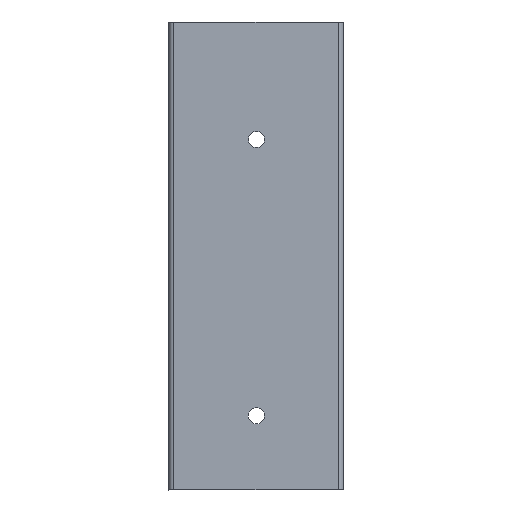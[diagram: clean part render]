
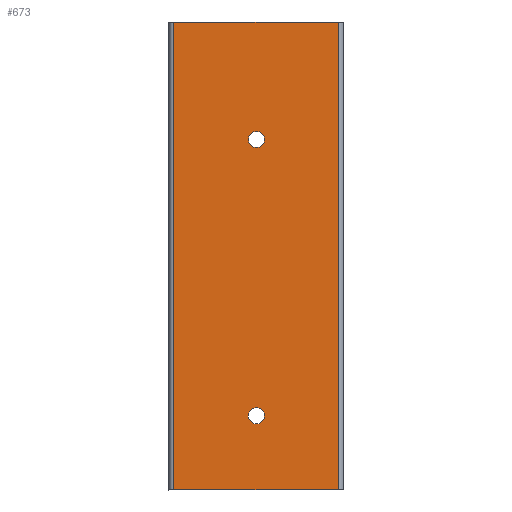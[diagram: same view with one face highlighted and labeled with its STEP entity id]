
A CAD part, top view. The second image highlights one B-rep face of the part: STEP entity #673.
In plain terms, the highlighted planar face has unit normal (0, 0, 1).
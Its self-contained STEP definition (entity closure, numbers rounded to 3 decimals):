
#60 = PLANE('',#61);
#61 = AXIS2_PLACEMENT_3D('',#62,#63,#64);
#62 = CARTESIAN_POINT('',(-93.276,260.35,
    -14.387));
#63 = DIRECTION('',(0.,-1.,0.));
#64 = DIRECTION('',(1.,0.,0.));
#88 = CYLINDRICAL_SURFACE('',#89,2.955);
#89 = AXIS2_PLACEMENT_3D('',#90,#91,#92);
#90 = CARTESIAN_POINT('',(-90.321,0.,
    -4.642));
#91 = DIRECTION('',(0.,-1.,0.));
#92 = DIRECTION('',(1.,0.,0.));
#114 = PLANE('',#115);
#115 = AXIS2_PLACEMENT_3D('',#116,#117,#118);
#116 = CARTESIAN_POINT('',(-93.276,0.,
    -14.387));
#117 = DIRECTION('',(0.,-1.,0.));
#118 = DIRECTION('',(1.,0.,0.));
#129 = EDGE_CURVE('',#130,#132,#134,.T.);
#130 = VERTEX_POINT('',#131);
#131 = CARTESIAN_POINT('',(-90.321,0.,
    -1.687));
#132 = VERTEX_POINT('',#133);
#133 = CARTESIAN_POINT('',(-90.321,260.35,
    -1.687));
#134 = SURFACE_CURVE('',#135,(#139,#146),.PCURVE_S1.);
#135 = LINE('',#136,#137);
#136 = CARTESIAN_POINT('',(-90.321,0.,
    -1.687));
#137 = VECTOR('',#138,1.);
#138 = DIRECTION('',(-0.,1.,0.));
#139 = PCURVE('',#88,#140);
#140 = DEFINITIONAL_REPRESENTATION('',(#141),#145);
#141 = LINE('',#142,#143);
#142 = CARTESIAN_POINT('',(1.571,0.));
#143 = VECTOR('',#144,1.);
#144 = DIRECTION('',(0.,-1.));
#145 = ( GEOMETRIC_REPRESENTATION_CONTEXT(2) 
PARAMETRIC_REPRESENTATION_CONTEXT() REPRESENTATION_CONTEXT('2D SPACE',''
  ) );
#146 = PCURVE('',#147,#152);
#147 = PLANE('',#148);
#148 = AXIS2_PLACEMENT_3D('',#149,#150,#151);
#149 = CARTESIAN_POINT('',(-90.321,0.,
    -1.687));
#150 = DIRECTION('',(0.,0.,-1.));
#151 = DIRECTION('',(1.,0.,0.));
#152 = DEFINITIONAL_REPRESENTATION('',(#153),#157);
#153 = LINE('',#154,#155);
#154 = CARTESIAN_POINT('',(0.,0.));
#155 = VECTOR('',#156,1.);
#156 = DIRECTION('',(0.,-1.));
#157 = ( GEOMETRIC_REPRESENTATION_CONTEXT(2) 
PARAMETRIC_REPRESENTATION_CONTEXT() REPRESENTATION_CONTEXT('2D SPACE',''
  ) );
#209 = EDGE_CURVE('',#130,#210,#212,.T.);
#210 = VERTEX_POINT('',#211);
#211 = CARTESIAN_POINT('',(0.924,0.,
    -1.687));
#212 = SURFACE_CURVE('',#213,(#217,#224),.PCURVE_S1.);
#213 = LINE('',#214,#215);
#214 = CARTESIAN_POINT('',(-90.321,0.,
    -1.687));
#215 = VECTOR('',#216,1.);
#216 = DIRECTION('',(1.,0.,0.));
#217 = PCURVE('',#114,#218);
#218 = DEFINITIONAL_REPRESENTATION('',(#219),#223);
#219 = LINE('',#220,#221);
#220 = CARTESIAN_POINT('',(2.955,12.7));
#221 = VECTOR('',#222,1.);
#222 = DIRECTION('',(1.,0.));
#223 = ( GEOMETRIC_REPRESENTATION_CONTEXT(2) 
PARAMETRIC_REPRESENTATION_CONTEXT() REPRESENTATION_CONTEXT('2D SPACE',''
  ) );
#224 = PCURVE('',#147,#225);
#225 = DEFINITIONAL_REPRESENTATION('',(#226),#230);
#226 = LINE('',#227,#228);
#227 = CARTESIAN_POINT('',(0.,0.));
#228 = VECTOR('',#229,1.);
#229 = DIRECTION('',(1.,0.));
#230 = ( GEOMETRIC_REPRESENTATION_CONTEXT(2) 
PARAMETRIC_REPRESENTATION_CONTEXT() REPRESENTATION_CONTEXT('2D SPACE',''
  ) );
#249 = CYLINDRICAL_SURFACE('',#250,2.955);
#250 = AXIS2_PLACEMENT_3D('',#251,#252,#253);
#251 = CARTESIAN_POINT('',(0.924,0.,
    -4.642));
#252 = DIRECTION('',(0.,-1.,0.));
#253 = DIRECTION('',(1.,0.,0.));
#464 = EDGE_CURVE('',#132,#465,#467,.T.);
#465 = VERTEX_POINT('',#466);
#466 = CARTESIAN_POINT('',(0.924,260.35,
    -1.687));
#467 = SURFACE_CURVE('',#468,(#472,#479),.PCURVE_S1.);
#468 = LINE('',#469,#470);
#469 = CARTESIAN_POINT('',(-90.321,260.35,
    -1.687));
#470 = VECTOR('',#471,1.);
#471 = DIRECTION('',(1.,0.,0.));
#472 = PCURVE('',#60,#473);
#473 = DEFINITIONAL_REPRESENTATION('',(#474),#478);
#474 = LINE('',#475,#476);
#475 = CARTESIAN_POINT('',(2.955,12.7));
#476 = VECTOR('',#477,1.);
#477 = DIRECTION('',(1.,0.));
#478 = ( GEOMETRIC_REPRESENTATION_CONTEXT(2) 
PARAMETRIC_REPRESENTATION_CONTEXT() REPRESENTATION_CONTEXT('2D SPACE',''
  ) );
#479 = PCURVE('',#147,#480);
#480 = DEFINITIONAL_REPRESENTATION('',(#481),#485);
#481 = LINE('',#482,#483);
#482 = CARTESIAN_POINT('',(0.,-260.35));
#483 = VECTOR('',#484,1.);
#484 = DIRECTION('',(1.,0.));
#485 = ( GEOMETRIC_REPRESENTATION_CONTEXT(2) 
PARAMETRIC_REPRESENTATION_CONTEXT() REPRESENTATION_CONTEXT('2D SPACE',''
  ) );
#673 = ADVANCED_FACE('',(#674,#729,#784),#147,.F.);
#674 = FACE_BOUND('',#675,.F.);
#675 = EDGE_LOOP('',(#676,#707));
#676 = ORIENTED_EDGE('',*,*,#677,.F.);
#677 = EDGE_CURVE('',#678,#680,#682,.T.);
#678 = VERTEX_POINT('',#679);
#679 = CARTESIAN_POINT('',(-39.954,194.945,-1.687));
#680 = VERTEX_POINT('',#681);
#681 = CARTESIAN_POINT('',(-44.45,199.441,-1.687));
#682 = SURFACE_CURVE('',#683,(#688,#695),.PCURVE_S1.);
#683 = CIRCLE('',#684,4.496);
#684 = AXIS2_PLACEMENT_3D('',#685,#686,#687);
#685 = CARTESIAN_POINT('',(-44.45,194.945,-1.687));
#686 = DIRECTION('',(0.,0.,-1.));
#687 = DIRECTION('',(0.,1.,0.));
#688 = PCURVE('',#147,#689);
#689 = DEFINITIONAL_REPRESENTATION('',(#690),#694);
#690 = CIRCLE('',#691,4.496);
#691 = AXIS2_PLACEMENT_2D('',#692,#693);
#692 = CARTESIAN_POINT('',(45.871,-194.945));
#693 = DIRECTION('',(0.,-1.));
#694 = ( GEOMETRIC_REPRESENTATION_CONTEXT(2) 
PARAMETRIC_REPRESENTATION_CONTEXT() REPRESENTATION_CONTEXT('2D SPACE',''
  ) );
#695 = PCURVE('',#696,#701);
#696 = CYLINDRICAL_SURFACE('',#697,4.496);
#697 = AXIS2_PLACEMENT_3D('',#698,#699,#700);
#698 = CARTESIAN_POINT('',(-44.45,194.945,0.));
#699 = DIRECTION('',(0.,0.,-1.));
#700 = DIRECTION('',(1.,0.,0.));
#701 = DEFINITIONAL_REPRESENTATION('',(#702),#706);
#702 = LINE('',#703,#704);
#703 = CARTESIAN_POINT('',(-1.571,1.687));
#704 = VECTOR('',#705,1.);
#705 = DIRECTION('',(1.,0.));
#706 = ( GEOMETRIC_REPRESENTATION_CONTEXT(2) 
PARAMETRIC_REPRESENTATION_CONTEXT() REPRESENTATION_CONTEXT('2D SPACE',''
  ) );
#707 = ORIENTED_EDGE('',*,*,#708,.F.);
#708 = EDGE_CURVE('',#680,#678,#709,.T.);
#709 = SURFACE_CURVE('',#710,(#715,#722),.PCURVE_S1.);
#710 = CIRCLE('',#711,4.496);
#711 = AXIS2_PLACEMENT_3D('',#712,#713,#714);
#712 = CARTESIAN_POINT('',(-44.45,194.945,-1.687));
#713 = DIRECTION('',(0.,0.,-1.));
#714 = DIRECTION('',(0.,1.,0.));
#715 = PCURVE('',#147,#716);
#716 = DEFINITIONAL_REPRESENTATION('',(#717),#721);
#717 = CIRCLE('',#718,4.496);
#718 = AXIS2_PLACEMENT_2D('',#719,#720);
#719 = CARTESIAN_POINT('',(45.871,-194.945));
#720 = DIRECTION('',(0.,-1.));
#721 = ( GEOMETRIC_REPRESENTATION_CONTEXT(2) 
PARAMETRIC_REPRESENTATION_CONTEXT() REPRESENTATION_CONTEXT('2D SPACE',''
  ) );
#722 = PCURVE('',#696,#723);
#723 = DEFINITIONAL_REPRESENTATION('',(#724),#728);
#724 = LINE('',#725,#726);
#725 = CARTESIAN_POINT('',(4.712,1.687));
#726 = VECTOR('',#727,1.);
#727 = DIRECTION('',(1.,0.));
#728 = ( GEOMETRIC_REPRESENTATION_CONTEXT(2) 
PARAMETRIC_REPRESENTATION_CONTEXT() REPRESENTATION_CONTEXT('2D SPACE',''
  ) );
#729 = FACE_BOUND('',#730,.F.);
#730 = EDGE_LOOP('',(#731,#762));
#731 = ORIENTED_EDGE('',*,*,#732,.F.);
#732 = EDGE_CURVE('',#733,#735,#737,.T.);
#733 = VERTEX_POINT('',#734);
#734 = CARTESIAN_POINT('',(-39.954,41.275,-1.687));
#735 = VERTEX_POINT('',#736);
#736 = CARTESIAN_POINT('',(-44.45,45.771,-1.687));
#737 = SURFACE_CURVE('',#738,(#743,#750),.PCURVE_S1.);
#738 = CIRCLE('',#739,4.496);
#739 = AXIS2_PLACEMENT_3D('',#740,#741,#742);
#740 = CARTESIAN_POINT('',(-44.45,41.275,-1.687));
#741 = DIRECTION('',(0.,0.,-1.));
#742 = DIRECTION('',(0.,1.,0.));
#743 = PCURVE('',#147,#744);
#744 = DEFINITIONAL_REPRESENTATION('',(#745),#749);
#745 = CIRCLE('',#746,4.496);
#746 = AXIS2_PLACEMENT_2D('',#747,#748);
#747 = CARTESIAN_POINT('',(45.871,-41.275));
#748 = DIRECTION('',(0.,-1.));
#749 = ( GEOMETRIC_REPRESENTATION_CONTEXT(2) 
PARAMETRIC_REPRESENTATION_CONTEXT() REPRESENTATION_CONTEXT('2D SPACE',''
  ) );
#750 = PCURVE('',#751,#756);
#751 = CYLINDRICAL_SURFACE('',#752,4.496);
#752 = AXIS2_PLACEMENT_3D('',#753,#754,#755);
#753 = CARTESIAN_POINT('',(-44.45,41.275,0.));
#754 = DIRECTION('',(0.,0.,-1.));
#755 = DIRECTION('',(1.,0.,0.));
#756 = DEFINITIONAL_REPRESENTATION('',(#757),#761);
#757 = LINE('',#758,#759);
#758 = CARTESIAN_POINT('',(-1.571,1.687));
#759 = VECTOR('',#760,1.);
#760 = DIRECTION('',(1.,0.));
#761 = ( GEOMETRIC_REPRESENTATION_CONTEXT(2) 
PARAMETRIC_REPRESENTATION_CONTEXT() REPRESENTATION_CONTEXT('2D SPACE',''
  ) );
#762 = ORIENTED_EDGE('',*,*,#763,.F.);
#763 = EDGE_CURVE('',#735,#733,#764,.T.);
#764 = SURFACE_CURVE('',#765,(#770,#777),.PCURVE_S1.);
#765 = CIRCLE('',#766,4.496);
#766 = AXIS2_PLACEMENT_3D('',#767,#768,#769);
#767 = CARTESIAN_POINT('',(-44.45,41.275,-1.687));
#768 = DIRECTION('',(0.,0.,-1.));
#769 = DIRECTION('',(0.,1.,0.));
#770 = PCURVE('',#147,#771);
#771 = DEFINITIONAL_REPRESENTATION('',(#772),#776);
#772 = CIRCLE('',#773,4.496);
#773 = AXIS2_PLACEMENT_2D('',#774,#775);
#774 = CARTESIAN_POINT('',(45.871,-41.275));
#775 = DIRECTION('',(0.,-1.));
#776 = ( GEOMETRIC_REPRESENTATION_CONTEXT(2) 
PARAMETRIC_REPRESENTATION_CONTEXT() REPRESENTATION_CONTEXT('2D SPACE',''
  ) );
#777 = PCURVE('',#751,#778);
#778 = DEFINITIONAL_REPRESENTATION('',(#779),#783);
#779 = LINE('',#780,#781);
#780 = CARTESIAN_POINT('',(4.712,1.687));
#781 = VECTOR('',#782,1.);
#782 = DIRECTION('',(1.,0.));
#783 = ( GEOMETRIC_REPRESENTATION_CONTEXT(2) 
PARAMETRIC_REPRESENTATION_CONTEXT() REPRESENTATION_CONTEXT('2D SPACE',''
  ) );
#784 = FACE_BOUND('',#785,.F.);
#785 = EDGE_LOOP('',(#786,#787,#788,#809));
#786 = ORIENTED_EDGE('',*,*,#129,.T.);
#787 = ORIENTED_EDGE('',*,*,#464,.T.);
#788 = ORIENTED_EDGE('',*,*,#789,.F.);
#789 = EDGE_CURVE('',#210,#465,#790,.T.);
#790 = SURFACE_CURVE('',#791,(#795,#802),.PCURVE_S1.);
#791 = LINE('',#792,#793);
#792 = CARTESIAN_POINT('',(0.924,0.,
    -1.687));
#793 = VECTOR('',#794,1.);
#794 = DIRECTION('',(-0.,1.,0.));
#795 = PCURVE('',#147,#796);
#796 = DEFINITIONAL_REPRESENTATION('',(#797),#801);
#797 = LINE('',#798,#799);
#798 = CARTESIAN_POINT('',(91.245,0.));
#799 = VECTOR('',#800,1.);
#800 = DIRECTION('',(0.,-1.));
#801 = ( GEOMETRIC_REPRESENTATION_CONTEXT(2) 
PARAMETRIC_REPRESENTATION_CONTEXT() REPRESENTATION_CONTEXT('2D SPACE',''
  ) );
#802 = PCURVE('',#249,#803);
#803 = DEFINITIONAL_REPRESENTATION('',(#804),#808);
#804 = LINE('',#805,#806);
#805 = CARTESIAN_POINT('',(1.571,0.));
#806 = VECTOR('',#807,1.);
#807 = DIRECTION('',(0.,-1.));
#808 = ( GEOMETRIC_REPRESENTATION_CONTEXT(2) 
PARAMETRIC_REPRESENTATION_CONTEXT() REPRESENTATION_CONTEXT('2D SPACE',''
  ) );
#809 = ORIENTED_EDGE('',*,*,#209,.F.);
